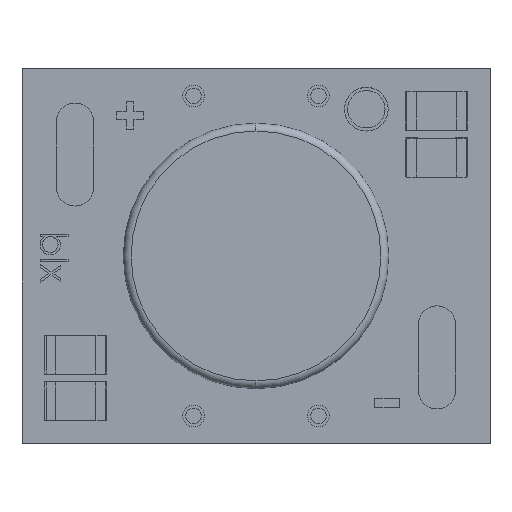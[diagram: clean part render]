
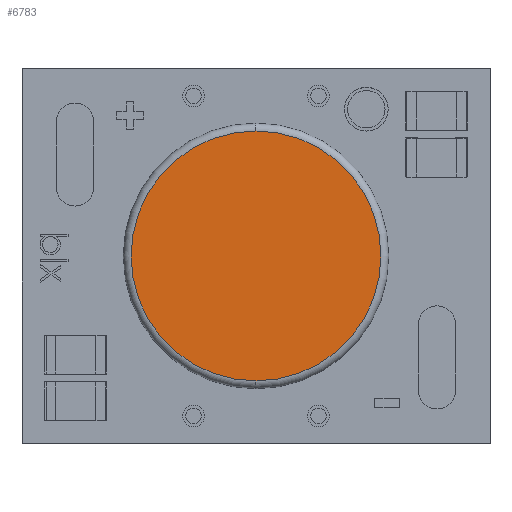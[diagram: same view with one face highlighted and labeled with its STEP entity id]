
A CAD part, top view. The second image highlights one B-rep face of the part: STEP entity #6783.
In plain terms, the highlighted planar face has unit normal (0, 0, 1).
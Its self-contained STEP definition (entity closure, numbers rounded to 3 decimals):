
#1895 = AXIS2_PLACEMENT_3D ( 'NONE', #2607, #10225, #3701 ) ;
#2607 = CARTESIAN_POINT ( 'NONE',  ( -119.21, -14.536, 16.195 ) ) ;
#3005 = DIRECTION ( 'NONE',  ( 0., 0., -1. ) ) ;
#3192 = EDGE_CURVE ( 'NONE', #4720, #4808, #13976, .T. ) ;
#3359 = FACE_OUTER_BOUND ( 'NONE', #7885, .T. ) ;
#3701 = DIRECTION ( 'NONE',  ( 1., 0., 0. ) ) ;
#4720 = VERTEX_POINT ( 'NONE', #9431 ) ;
#4808 = VERTEX_POINT ( 'NONE', #13982 ) ;
#5525 = CARTESIAN_POINT ( 'NONE',  ( -0.65, -0.565, 16.195 ) ) ;
#5920 = AXIS2_PLACEMENT_3D ( 'NONE', #9495, #3005, #10586 ) ;
#6628 = DIRECTION ( 'NONE',  ( 0., 1., 0. ) ) ;
#6783 = ADVANCED_FACE ( 'NONE', ( #3359 ), #12361, .T. ) ;
#7555 = ORIENTED_EDGE ( 'NONE', *, *, #7940, .F. ) ;
#7885 = EDGE_LOOP ( 'NONE', ( #7555, #13155 ) ) ;
#7940 = EDGE_CURVE ( 'NONE', #4808, #4720, #11140, .T. ) ;
#9197 = AXIS2_PLACEMENT_3D ( 'NONE', #5525, #13148, #6628 ) ;
#9431 = CARTESIAN_POINT ( 'NONE',  ( -0.65, -4.57, 16.195 ) ) ;
#9495 = CARTESIAN_POINT ( 'NONE',  ( -0.65, -0.565, 16.195 ) ) ;
#10225 = DIRECTION ( 'NONE',  ( 0., 0., 1. ) ) ;
#10586 = DIRECTION ( 'NONE',  ( 0., 1., 0. ) ) ;
#11140 = CIRCLE ( 'NONE', #9197, 4.005 ) ;
#12361 = PLANE ( 'NONE',  #1895 ) ;
#13148 = DIRECTION ( 'NONE',  ( 0., 0., -1. ) ) ;
#13155 = ORIENTED_EDGE ( 'NONE', *, *, #3192, .F. ) ;
#13976 = CIRCLE ( 'NONE', #5920, 4.005 ) ;
#13982 = CARTESIAN_POINT ( 'NONE',  ( -0.65, 3.44, 16.195 ) ) ;
